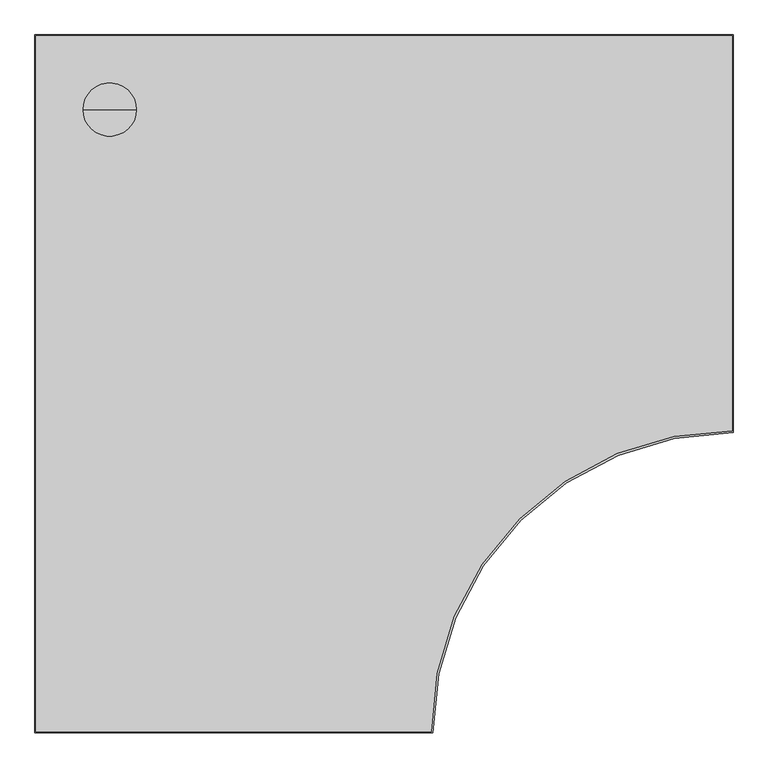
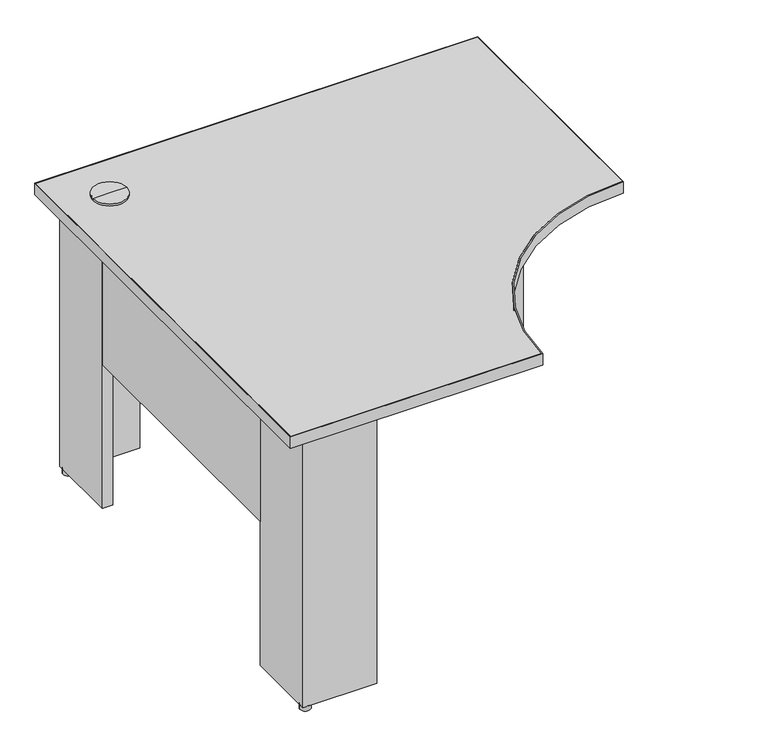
"""IFC4 building model written with IfcOpenShell, lengths in millimetres: furniture geometry, Steelcase - Kick Freestanding - Desk - Curve Corner - Partial Height Modesty Panel : 24D x 42W - Two Clear Access Support - LPL."""

from ifc_helpers import new_model, si_unit, point, frame, frame_2d, origin, origin_with_axes, place, context, project, spatial, polyline, circle_curve, trimmed, segment, composite_curve, outline, extrude, source, transform, mapped, element, save
from ifc_brep_helpers import plane_surface, cylinder_surface, advanced_brep


def furniture_cbd4db40(model_context):
    return source(origin(), model_context, "Body", "SolidModel", [
        extrude(outline(polyline([(874.0393822, -63.5), (874.0393822, -38.1), (1051.8393579, -38.1), (1051.8393579, -215.8999939), (1025.9313463, -215.8999939), (1025.9313463, -63.5), (874.0393822, -63.5)])), frame((0.0, 0.0, 12.446), z_axis=(0.0, 0.0, 1.0), x_axis=(1.0, 0.0, 0.0)), (0.0, 0.0, 1.0), 682.498),
        extrude(outline(polyline([(215.8999939, -63.5), (63.5, -63.5), (63.5, -215.8999939), (38.1, -215.8999939), (38.1, -38.1), (215.8999939, -38.1), (215.8999939, -63.5)])), frame((0.0, 0.0, 12.446), z_axis=(0.0, 0.0, 1.0), x_axis=(1.0, 0.0, 0.0)), (0.0, 0.0, 1.0), 682.498),
        advanced_brep(
        [(114.3, -114.3, 728.98), (154.94, -114.3, 728.98), (73.66, -114.3, 728.98), (76.1699693, -114.3, 694.944), (152.4300307, -114.3, 694.944), (114.3, -114.3, 694.944), (76.1699693, -114.3, 723.9), (152.4300307, -114.3, 723.9), (73.66, -114.3, 723.9), (154.94, -114.3, 723.9)],
        [
            (0, 1),
            (1, 2, circle_curve(frame((114.3, -114.3, 728.98), z_axis=(0.0, 0.0, 1.0), x_axis=(1.0, 0.0, 0.0)), 40.64)),
            (2, 0),
            (2, 1, circle_curve(frame((114.3, -114.3, 728.98), z_axis=(0.0, 0.0, 1.0), x_axis=(1.0, 0.0, 0.0)), 40.64)),
            (3, 4, circle_curve(frame((114.3, -114.3, 694.944), z_axis=(0.0, 0.0, -1.0), x_axis=(1.0, 0.0, 0.0)), 38.1300307)),
            (4, 5),
            (5, 3),
            (4, 3, circle_curve(frame((114.3, -114.3, 694.944), z_axis=(0.0, 0.0, -1.0), x_axis=(1.0, 0.0, 0.0)), 38.1300307)),
            (6, 7, circle_curve(frame((114.3, -114.3, 723.9), z_axis=(0.0, 0.0, -1.0), x_axis=(1.0, 0.0, 0.0)), 38.1300307)),
            (7, 4),
            (3, 6),
            (7, 6, circle_curve(frame((114.3, -114.3, 723.9), z_axis=(0.0, 0.0, -1.0), x_axis=(1.0, 0.0, 0.0)), 38.1300307)),
            (8, 9, circle_curve(frame((114.3, -114.3, 723.9), z_axis=(0.0, 0.0, -1.0), x_axis=(1.0, 0.0, 0.0)), 40.64)),
            (9, 7),
            (6, 8),
            (9, 8, circle_curve(frame((114.3, -114.3, 723.9), z_axis=(0.0, 0.0, -1.0), x_axis=(1.0, 0.0, 0.0)), 40.64)),
            (1, 9),
            (8, 2),
        ],
        [
            plane_surface(frame((114.3, -114.3, 728.98), z_axis=(0.0, 0.0, 1.0), x_axis=(1.0, 0.0, 0.0))),
            plane_surface(frame((114.3, -114.3, 694.944), z_axis=(0.0, 0.0, -1.0), x_axis=(1.0, 0.0, 0.0))),
            cylinder_surface(frame((114.3, -114.3, 728.98), z_axis=(0.0, 0.0, 1.0), x_axis=(1.0, 0.0, 0.0)), 38.1300307),
            plane_surface(frame((114.3, -114.3, 723.9), z_axis=(0.0, 0.0, -1.0), x_axis=(1.0, 0.0, 0.0))),
            cylinder_surface(frame((114.3, -114.3, 728.98), z_axis=(0.0, 0.0, 1.0), x_axis=(1.0, 0.0, 0.0)), 40.64),
        ],
        [
            (0, [[1, 2, 3]]),
            (0, [[-3, 4, -1]]),
            (1, [[5, 6, 7]]),
            (1, [[8, -7, -6]]),
            (2, [[9, 10, -5, 11]]),
            (2, [[12, -11, -8, -10]]),
            (3, [[13, 14, -9, 15]]),
            (3, [[16, -15, -12, -14]]),
            (4, [[-2, 17, -13, 18]]),
            (4, [[-4, -18, -16, -17]]),
        ],
    ),
        extrude(outline(composite_curve([segment(trimmed(circle_curve(frame_2d((50.8, -50.8)), 12.7), [point((38.1, -50.8))], [point((63.5, -50.8))], False, "CARTESIAN"), True, "CONTINUOUS"), segment(trimmed(circle_curve(frame_2d((50.8, -50.8)), 12.7), [point((63.5, -50.8))], [point((38.1, -50.8))], False, "CARTESIAN"), True, "CONTINUOUS")], self_intersect=False)), origin_with_axes(), (0.0, 0.0, 1.0), 12.446),
        extrude(outline(composite_curve([segment(trimmed(circle_curve(frame_2d((50.8, -1040.1300073)), 12.7484998), [point((38.0515002, -1040.1300073))], [point((63.5484998, -1040.1300073))], False, "CARTESIAN"), True, "CONTINUOUS"), segment(trimmed(circle_curve(frame_2d((50.8, -1040.1300073)), 12.7484998), [point((63.5484998, -1040.1300073))], [point((38.0515002, -1040.1300073))], False, "CARTESIAN"), True, "CONTINUOUS")], self_intersect=False)), origin_with_axes(), (0.0, 0.0, 1.0), 12.446),
        extrude(outline(composite_curve([segment(trimmed(circle_curve(frame_2d((1038.8853521, -50.8)), 12.7), [point((1026.1853521, -50.8))], [point((1051.5853521, -50.8))], False, "CARTESIAN"), True, "CONTINUOUS"), segment(trimmed(circle_curve(frame_2d((1038.8853521, -50.8)), 12.7), [point((1051.5853521, -50.8))], [point((1026.1853521, -50.8))], False, "CARTESIAN"), True, "CONTINUOUS")], self_intersect=False)), origin_with_axes(), (0.0, 0.0, 1.0), 12.446),
        extrude(outline(polyline([(63.5, -215.8999939), (63.5, -875.0300194), (38.1, -875.0300194), (38.1, -215.8999939), (63.5, -215.8999939)])), frame((0.0, 0.0, 379.476), z_axis=(0.0, 0.0, 1.0), x_axis=(1.0, 0.0, 0.0)), (0.0, 0.0, 1.0), 315.468),
        extrude(outline(polyline([(874.0393822, -38.1), (874.0393822, -63.5), (215.8999939, -63.5), (215.8999939, -38.1), (874.0393822, -38.1)])), frame((0.0, 0.0, 379.476), z_axis=(0.0, 0.0, 1.0), x_axis=(1.0, 0.0, 0.0)), (0.0, 0.0, 1.0), 315.468),
        extrude(outline(polyline([(215.8999939, -1027.4300194), (215.8999939, -1052.8299952), (38.1, -1052.8299952), (38.1, -875.0300194), (63.5, -875.0300194), (63.5, -1027.4300194), (215.8999939, -1027.4300194)])), frame((0.0, 0.0, 12.446), z_axis=(0.0, 0.0, 1.0), x_axis=(1.0, 0.0, 0.0)), (0.0, 0.0, 1.0), 682.498),
        extrude(outline(composite_curve([segment(polyline([(0.9906, -1065.8093628), (0.9906, -0.9906), (1065.8093628, -0.9906), (1065.8093628, -605.3354109)]), True, "CONTINUOUS"), segment(trimmed(circle_curve(frame_2d((1064.5393458, -1064.5393458)), 459.2056912), [point((1065.8093628, -605.3354109))], [point((605.3354109, -1065.8093628))], True, "CARTESIAN"), True, "CONTINUOUS"), segment(polyline([(605.3354109, -1065.8093628), (0.9906, -1065.8093628)]), True, "CONTINUOUS")], self_intersect=False)), frame((0.0, 0.0, 694.944), z_axis=(0.0, 0.0, 1.0), x_axis=(1.0, 0.0, 0.0)), (0.0, 0.0, 1.0), 28.956),
        extrude(outline(composite_curve([segment(polyline([(1066.8, 0.0), (1066.8, -608.332629)]), True, "CONTINUOUS"), segment(trimmed(circle_curve(frame_2d((1065.529983, -1065.529983)), 457.199118), [point((1066.8, -608.332629))], [point((608.332629, -1066.8))], True, "CARTESIAN"), True, "CONTINUOUS"), segment(polyline([(608.332629, -1066.8), (0.0, -1066.8), (0.0, 0.0), (1066.8, 0.0)]), True, "CONTINUOUS")], self_intersect=False), holes=[composite_curve([segment(polyline([(1065.8093628, -0.9906), (0.9906, -0.9906), (0.9906, -1065.8093628), (605.3354109, -1065.8093628)]), True, "CONTINUOUS"), segment(trimmed(circle_curve(frame_2d((1064.5393458, -1064.5393458)), 459.2056912), [point((605.3354109, -1065.8093628))], [point((1065.8093628, -605.3354109))], False, "CARTESIAN"), True, "CONTINUOUS"), segment(polyline([(1065.8093628, -605.3354109), (1065.8093628, -0.9906)]), True, "CONTINUOUS")], self_intersect=False)]), frame((0.0, 0.0, 694.944), z_axis=(0.0, 0.0, 1.0), x_axis=(1.0, 0.0, 0.0)), (0.0, 0.0, 1.0), 28.956),
    ])


if __name__ == "__main__":
    model = new_model("IFC4")
    model_context = context("Model", 3, world=origin())
    ifc_project = project(units=[si_unit("LENGTHUNIT", "METRE", prefix="MILLI")], contexts=[model_context])
    site = spatial("IfcSite", under=ifc_project)
    building = spatial("IfcBuilding", under=site)
    placement = place(None, origin())
    furniture_shape = furniture_cbd4db40(model_context)
    element("IfcFurniture", 1, ObjectType="Steelcase - Kick Freestanding - Desk - Curve Corner - Partial Height Modesty Panel : 24D x 42W - Two Clear Access Support - LPL", at=placement, inside=building, context=model_context, shape_type="MappedRepresentation", body=[
        mapped(furniture_shape, transform((0.0, 0.0, 0.0), x_axis=(1.0, 0.0, 0.0), y_axis=(0.0, 1.0, 0.0), z_axis=(0.0, 0.0, 1.0))),
    ])
    save(model, "model.ifc")
